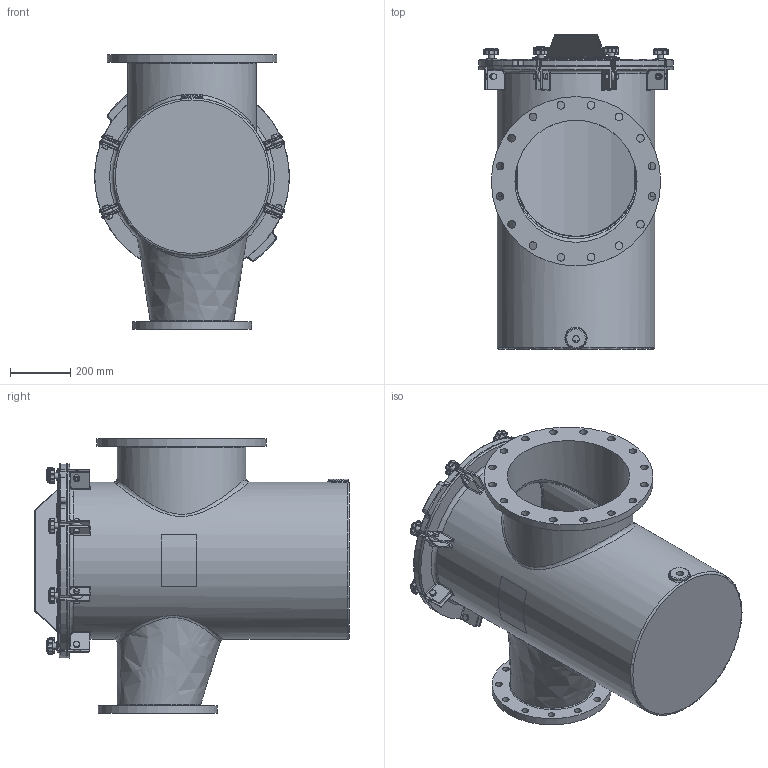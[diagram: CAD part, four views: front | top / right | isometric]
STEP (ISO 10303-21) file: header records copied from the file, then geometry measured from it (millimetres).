
FILE_DESCRIPTION(/* description */ ('400MM X 250MM FIBERGLASS STRAINER BODY'),/* implementation_level */ '2;1');
FILE_NAME(/* name */ 'E:\New folder (7)\Ready for delivery - Do not Disturb -Updated with metric Flange\Workspace\FG Reducing Strainer\Guardian FG Reducing H&L Strainer (Metric)\STRAINER H&L 400MM X 250MM.step',/* time_stamp */ '2016-10-19T04:16:30+06:00',/* author */ ('20076253'),/* organization */ (''),/* preprocessor_version */ 'ST-DEVELOPER v16.1',/* originating_system */ 'Autodesk Inventor 2016',/* authorisation */ '');
FILE_SCHEMA (('AUTOMOTIVE_DESIGN { 1 0 10303 214 3 1 1 }'));
Length unit declared in the file: inch
Products named in the file (24): NBFGBODY16X10MM; 150NBCVR22R2; 150NBGSK20R1; Perforated Basket 20in; Bride (Ring) 20in; Baffle 20in; Handle 20in; Bottom Strainer 20in; NBBSK16T316; BRACESTRCVR20_Welds; BRACE (BASE) FOR 20 BODY; BRACE (PROJ) FOR 20 BODY; Bumper; BRACESTRCVR20; Nut- 1_2  UNC; Bolt-1_2 x 1 1_2  UNC; EyeBolt; Washer; Knob M10; Securing Assembly For FG  with Brace; Securing Assembly For FG without Brace; Label for 20.625 inch (Right); Label for 20.625 inch (Left); STRAINER H&L 400MM X 250MM
Assembly tree (39 placements, depth 3):
  STRAINER H&L 400MM X 250MM
    NBFGBODY16X10MM
    150NBCVR22R2
    150NBGSK20R1
    NBBSK16T316
      Perforated Basket 20in
      Bride (Ring) 20in
      Baffle 20in
      Handle 20in
      Bottom Strainer 20in
    BRACESTRCVR20
      BRACESTRCVR20_Welds
      BRACE (BASE) FOR 20 BODY
      BRACE (PROJ) FOR 20 BODY
      Bumper  x6
    Securing Assembly For FG  with Brace  x2
      Nut- 1_2  UNC
      Bolt-1_2 x 1 1_2  UNC
      EyeBolt
      Washer
      Knob M10
    Securing Assembly For FG without Brace  x6
      Nut- 1_2  UNC
      Bolt-1_2 x 1 1_2  UNC
      EyeBolt
      Washer
      Knob M10
    Label for 20.625 inch (Right)
    Label for 20.625 inch (Left)
Bounding box: 647.7 x 1047.75 x 914.4 mm (x, y, z)
Volume: 34158731.5 mm3; surface area: 8452530.8 mm2
Topology: 68 solids, 68 shells, 1851 faces, 4251 edges, 2522 vertices
Faces by surface type: cylinder 686, plane 515, cone 184, torus 170, sphere 158, bspline 138
Full cylindrical faces by diameter (mm): 3.175 x11, 6.35 x2, 8.382 x8, 9.525 x16, 10.592 x8, 12.7 x8, 15.875 x16, 19 x16, 19.05 x8, 22.098 x12, 22.809 x1, 25.4 x16, 31.75 x8, 68.263 x1, 396.24 x1, 403.225 x2, 406.4 x2, 408.94 x1, 428.625 x1, 508 x2, 511.175 x1, 514.35 x1, 523.875 x1, 563.88 x1, 577.85 x1, 584.2 x1
Entity records: 36223 total; most frequent: CARTESIAN_POINT 12254, DIRECTION 4915, ORIENTED_EDGE 4558, EDGE_CURVE 2279, AXIS2_PLACEMENT_3D 2000, VERTEX_POINT 1438, EDGE_LOOP 1235, ADVANCED_FACE 1001
